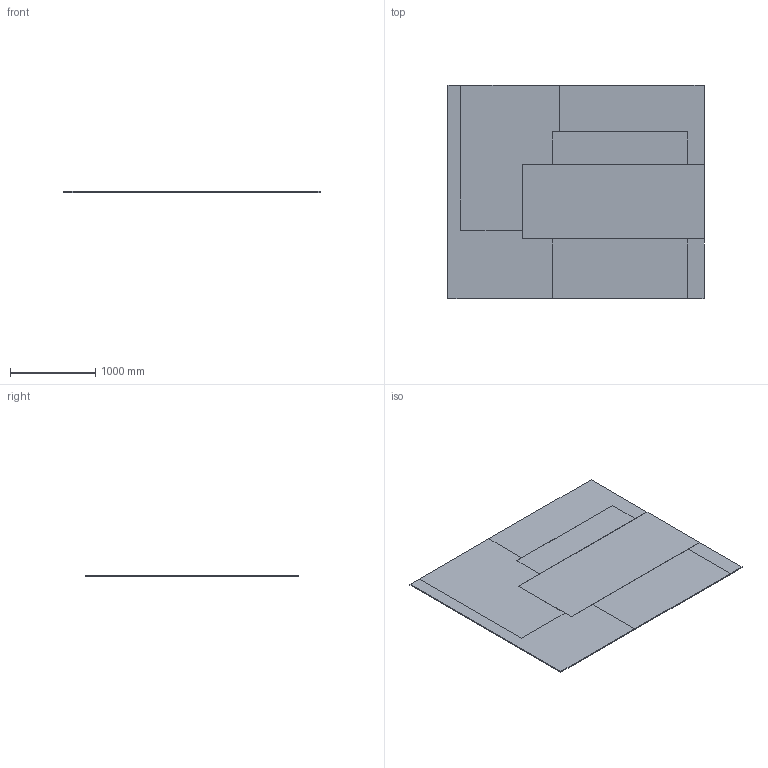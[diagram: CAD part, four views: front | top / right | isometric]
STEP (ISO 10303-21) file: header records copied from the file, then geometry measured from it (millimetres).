
FILE_DESCRIPTION(/* description */ (''),/* implementation_level */ '2;1');
FILE_NAME(/* name */ 'Cassis-Rug_300x250_3D_JS_20231010',/* time_stamp */ '2023-10-11T11:15:32+02:00',/* author */ (''),/* organization */ (''),/* preprocessor_version */ 'ST-DEVELOPER v16.5',/* originating_system */ 'Rhino 7.33',/* authorisation */ '');
FILE_SCHEMA (('CONFIG_CONTROL_DESIGN'));
Length unit declared in the file: millimetre
Products named in the file (1): Document
Bounding box: 3000 x 2500.48 x 12 mm (x, y, z)
Volume: 90017340.1 mm3; surface area: 15419068.5 mm2
Topology: 7 solids, 7 shells, 52 faces, 114 edges, 76 vertices
Faces by surface type: plane 52
Entity records: 1306 total; most frequent: CARTESIAN_POINT 358, ORIENTED_EDGE 228, EDGE_CURVE 114, B_SPLINE_CURVE_WITH_KNOTS 114, VERTEX_POINT 76, DIRECTION 56, AXIS2_PLACEMENT_3D 54, ADVANCED_FACE 52
